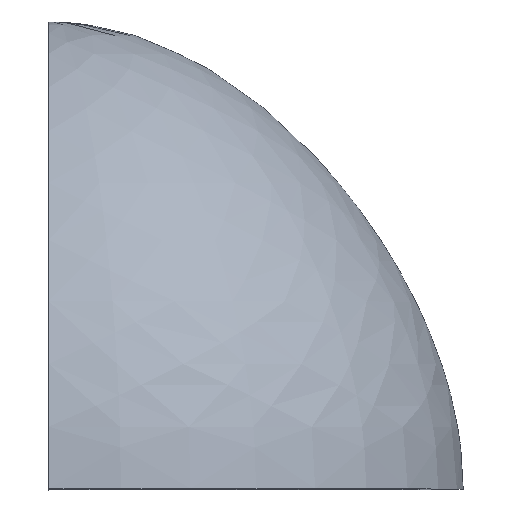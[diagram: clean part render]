
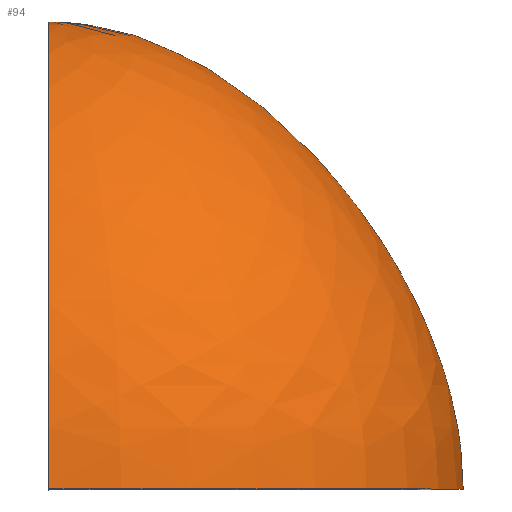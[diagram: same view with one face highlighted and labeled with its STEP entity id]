
A CAD part, top view. The second image highlights one B-rep face of the part: STEP entity #94.
In plain terms, the highlighted face is a revolution surface.
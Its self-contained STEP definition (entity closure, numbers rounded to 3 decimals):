
#52=CARTESIAN_POINT('Control Point',(0.,0.,94.)) ;
#53=CARTESIAN_POINT('Control Point',(0.,28.335,94.)) ;
#54=CARTESIAN_POINT('Control Point',(0.,58.377,81.126)) ;
#55=CARTESIAN_POINT('Control Point',(0.,90.126,55.377)) ;
#56=CARTESIAN_POINT('Control Point',(0.,106.,28.335)) ;
#57=CARTESIAN_POINT('Control Point',(0.,106.,0.)) ;
#58=CARTESIAN_POINT('Axis1P Location',(0.,0.,0.)) ;
#63=CARTESIAN_POINT('Control Point',(0.,0.,-94.)) ;
#64=CARTESIAN_POINT('Control Point',(0.,28.335,-94.)) ;
#65=CARTESIAN_POINT('Control Point',(0.,58.377,-81.126)) ;
#66=CARTESIAN_POINT('Control Point',(0.,90.126,-55.377)) ;
#67=CARTESIAN_POINT('Control Point',(0.,106.,-28.335)) ;
#68=CARTESIAN_POINT('Control Point',(0.,106.,0.)) ;
#69=CARTESIAN_POINT('Vertex',(0.,0.,-94.)) ;
#71=CARTESIAN_POINT('Vertex',(0.,106.,0.)) ;
#75=CARTESIAN_POINT('Control Point',(0.,0.,94.)) ;
#76=CARTESIAN_POINT('Control Point',(0.,28.335,94.)) ;
#77=CARTESIAN_POINT('Control Point',(0.,58.377,81.126)) ;
#78=CARTESIAN_POINT('Control Point',(0.,90.126,55.377)) ;
#79=CARTESIAN_POINT('Control Point',(0.,106.,28.335)) ;
#80=CARTESIAN_POINT('Control Point',(0.,106.,0.)) ;
#81=CARTESIAN_POINT('Vertex',(0.,0.,94.)) ;
#84=CARTESIAN_POINT('Axis2P3D Location',(0.,0.,0.)) ;
#59=DIRECTION('Axis1P Direction',(0.,1.,0.)) ;
#85=DIRECTION('Axis2P3D Direction',(0.,1.,0.)) ;
#86=AXIS2_PLACEMENT_3D('Circle Axis2P3D',#84,#85,$) ;
#90=ORIENTED_EDGE('',*,*,#73,.T.) ;
#91=ORIENTED_EDGE('',*,*,#83,.F.) ;
#92=ORIENTED_EDGE('',*,*,#88,.T.) ;
#94=ADVANCED_FACE('PartBody',(#93),#61,.T.) ;
#60=AXIS1_PLACEMENT('Revolution Surface Axis1P',#58,#59) ;
#51=B_SPLINE_CURVE_WITH_KNOTS('',5,(#52,#53,#54,#55,#56,#57),.UNSPECIFIED.,.F.,.U.,(6,6),(0.,141.676),.UNSPECIFIED.) ;
#62=B_SPLINE_CURVE_WITH_KNOTS('',5,(#63,#64,#65,#66,#67,#68),.UNSPECIFIED.,.F.,.U.,(6,6),(0.,141.676),.UNSPECIFIED.) ;
#74=B_SPLINE_CURVE_WITH_KNOTS('',5,(#75,#76,#77,#78,#79,#80),.UNSPECIFIED.,.F.,.U.,(6,6),(0.,141.676),.UNSPECIFIED.) ;
#87=CIRCLE('generated circle',#86,94.) ;
#73=EDGE_CURVE('',#70,#72,#62,.T.) ;
#83=EDGE_CURVE('',#82,#72,#74,.T.) ;
#88=EDGE_CURVE('',#82,#70,#87,.T.) ;
#89=EDGE_LOOP('',(#90,#91,#92)) ;
#93=FACE_OUTER_BOUND('',#89,.T.) ;
#61=SURFACE_OF_REVOLUTION('Surface of Revolution',#51,#60) ;
#70=VERTEX_POINT('',#69) ;
#72=VERTEX_POINT('',#71) ;
#82=VERTEX_POINT('',#81) ;
